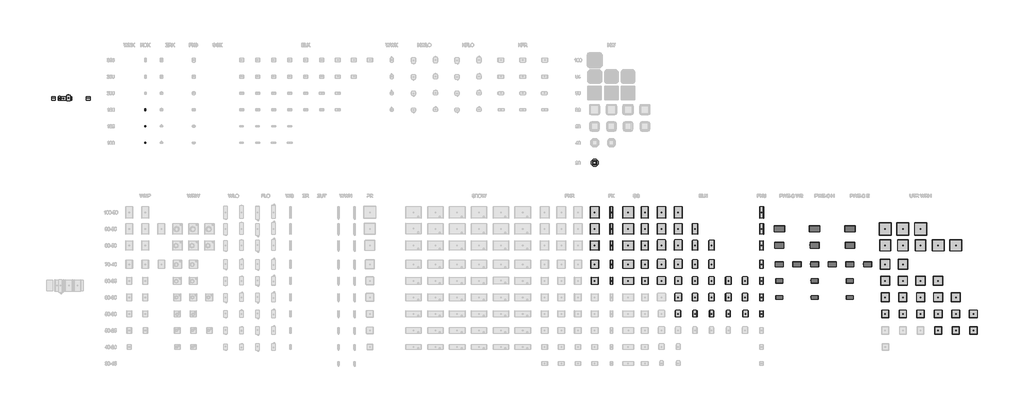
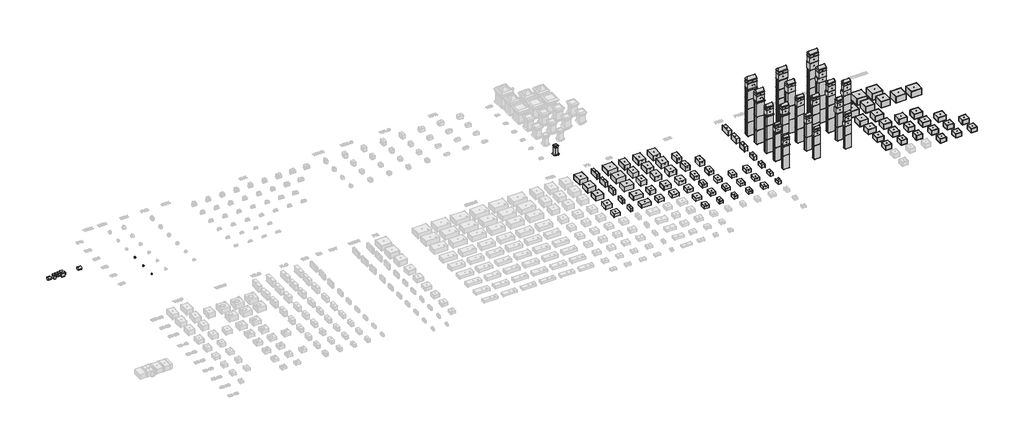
# One storey, part 3 of 9: 78 proxies, 31 dampers, 3 duct segments.
"""IFC4 building model written with IfcOpenShell, lengths in millimetres."""

from ifc_helpers import new_model, si_unit, point, frame, frame_2d, origin, place, context, project, spatial, circle_curve, trimmed, segment, composite_curve, outline, extrude, transform, mapped, element, save
from components import mechanical_equipment_1296d030, mechanical_equipment_de77129b, mechanical_equipment_b2e45c71, mechanical_equipment_80870b71, mechanical_equipment_bf6ab390, mechanical_equipment_8cc4688e, mechanical_equipment_849cdbe2, mechanical_equipment_e74dfba3, mechanical_equipment_cd2b06a3, mechanical_equipment_105a97da, mechanical_equipment_6797398d, mechanical_equipment_274835f8, mechanical_equipment_491a1ca1, mechanical_equipment_f1a6d064, mechanical_equipment_4c110e3a, mechanical_equipment_a9e4a32b, mechanical_equipment_da6cc8be, mechanical_equipment_12c0542f, mechanical_equipment_2c1e1821, mechanical_equipment_79836306, mechanical_equipment_3d7fcfd4, mechanical_equipment_096a3595, mechanical_equipment_4180a14e, mechanical_equipment_0b07e7d4, mechanical_equipment_79609267, mechanical_equipment_4406454f, mechanical_equipment_02dd2566, mechanical_equipment_f1bd4714, mechanical_equipment_54920270, mechanical_equipment_fbcd34f2, mechanical_equipment_86ce59b1, elk_315_15_a8f8469e, eln_100_50_45_c4674b5d, eln_50_30_12_ada01c48, eln_50_30_3_2654330d, eln_60_30_12_18bf4b00, eln_60_30_22_5_3fbc5c95, eln_60_35_12_623b2ca9, eln_60_35_22_5_8175634e, eln_60_35_30_b6c51ae0, eln_70_40_15_d8b5ab56, eln_70_40_45_cacf244f, eln_80_50_15_f0a65cec, eln_80_50_45_32029ed2, eln_90_50_30_69c1a980, eln_90_50_45_31dba81d, damper_272f7c6b, damper_729cf8fa, damper_902c86e1, damper_4f7fa12c, damper_6eec61e3, damper_88687493, damper_a36f345f, damper_d0f4b42e, fk_100_50_707d1d4b, fk_60_35_812c30d3, fk_70_40_5eea0806, fk_80_50_6e3d6ca7, fk_90_50_c3d4b518, fks_315_ea77e572, fku_100_50_21f81071, fku_50_30_2222d7ca, fku_60_30_1978927d, fku_60_35_e6e70716, fku_70_40_d07f7ef0, fku_80_50_0fca9827, fku_90_50_6f7e69bd, sg_100_50_84ea0e26, sg_100_50_6_c8bbc382, sg_60_35_a4c04428, sg_60_35_6_1dfb9e31, sg_70_40_5b22be34, sg_70_40_6_c95f8c90, sg_80_50_20a77c57, sg_80_50_6_522d5c34, sg_90_50_faf93912, sg_90_50_6_1e20c007

model = new_model("IFC4")

# Units and contexts
model_context = context("Model", 3, world=origin())
ifc_project = project(units=[si_unit("LENGTHUNIT", "METRE", prefix="MILLI")], contexts=[model_context])

# Site, building, storey
site = spatial("IfcSite", under=ifc_project)
building = spatial("IfcBuilding", under=site)
storey = spatial("IfcBuildingStorey", under=building, Name="KORF_Уровень 1", Elevation=0.0)

# Proxies
placement = place(None, origin())
mechanical_equipment_shape = mechanical_equipment_1296d030(model_context)
element("IfcBuildingElementProxy", 1, Name="KORF_Завеса_ВодянойНагрев_PWZ_C : PWZ-C 90-50 W2", ObjectType="KORF_Завеса_ВодянойНагрев_PWZ_C : PWZ-C 90-50 W2", at=placement, inside=storey, context=model_context, shape_type="MappedRepresentation", body=[
    mapped(mechanical_equipment_shape, transform((50074.8090444, -7120.5318822, 0.0), x_axis=(1.0, 0.0, 0.0), y_axis=(0.0, 1.0, 0.0), z_axis=(0.0, 0.0, 1.0))),
])
mechanical_equipment_2_shape = mechanical_equipment_de77129b(model_context)
element("IfcBuildingElementProxy", 2, Name="KORF_Завеса_ВодянойНагрев_PWZ_C : PWZ-C 80-50 W2", ObjectType="KORF_Завеса_ВодянойНагрев_PWZ_C : PWZ-C 80-50 W2", at=placement, inside=storey, context=model_context, shape_type="MappedRepresentation", body=[
    mapped(mechanical_equipment_2_shape, transform((50074.8090444, -8634.5126897, 0.0), x_axis=(1.0, 0.0, 0.0), y_axis=(0.0, 1.0, 0.0), z_axis=(0.0, 0.0, 1.0))),
])
mechanical_equipment_3_shape = mechanical_equipment_b2e45c71(model_context)
element("IfcBuildingElementProxy", 3, Name="KORF_Завеса_ВодянойНагрев_PWZ_C : PWZ-C 70-40 W2 DM", ObjectType="KORF_Завеса_ВодянойНагрев_PWZ_C : PWZ-C 70-40 W2 DM", at=placement, inside=storey, context=model_context, shape_type="MappedRepresentation", body=[
    mapped(mechanical_equipment_3_shape, transform((50074.8090444, -10364.6278447, 0.0), x_axis=(1.0, 0.0, 0.0), y_axis=(0.0, 1.0, 0.0), z_axis=(0.0, 0.0, 1.0))),
])
mechanical_equipment_4_shape = mechanical_equipment_80870b71(model_context)
element("IfcBuildingElementProxy", 4, Name="KORF_Завеса_ВодянойНагрев_PWZ_C : PWZ-C 60-30 W2", ObjectType="KORF_Завеса_ВодянойНагрев_PWZ_C : PWZ-C 60-30 W2", at=placement, inside=storey, context=model_context, shape_type="MappedRepresentation", body=[
    mapped(mechanical_equipment_4_shape, transform((50074.8090444, -13392.5894597, 0.0), x_axis=(1.0, 0.0, 0.0), y_axis=(0.0, 1.0, 0.0), z_axis=(0.0, 0.0, 1.0))),
])
mechanical_equipment_5_shape = mechanical_equipment_bf6ab390(model_context)
element("IfcBuildingElementProxy", 5, Name="KORF_Завеса_БезНагрева_PWZ_C : PWZ-C 90-50 H", ObjectType="KORF_Завеса_БезНагрева_PWZ_C : PWZ-C 90-50 H", at=placement, inside=storey, context=model_context, shape_type="MappedRepresentation", body=[
    mapped(mechanical_equipment_5_shape, transform((53307.4242036, -7120.5318822, 0.0), x_axis=(1.0, 0.0, 0.0), y_axis=(0.0, 1.0, 0.0), z_axis=(0.0, 0.0, 1.0))),
])
mechanical_equipment_6_shape = mechanical_equipment_8cc4688e(model_context)
element("IfcBuildingElementProxy", 6, Name="KORF_Завеса_БезНагрева_PWZ_C : PWZ-C 80-50 H", ObjectType="KORF_Завеса_БезНагрева_PWZ_C : PWZ-C 80-50 H", at=placement, inside=storey, context=model_context, shape_type="MappedRepresentation", body=[
    mapped(mechanical_equipment_6_shape, transform((53308.4242036, -8634.5126897, 0.0), x_axis=(1.0, 0.0, 0.0), y_axis=(0.0, 1.0, 0.0), z_axis=(0.0, 0.0, 1.0))),
])
mechanical_equipment_7_shape = mechanical_equipment_849cdbe2(model_context)
element("IfcBuildingElementProxy", 7, Name="KORF_Завеса_БезНагрева_PWZ_C : PWZ-C 70-40 H DM", ObjectType="KORF_Завеса_БезНагрева_PWZ_C : PWZ-C 70-40 H DM", at=placement, inside=storey, context=model_context, shape_type="MappedRepresentation", body=[
    mapped(mechanical_equipment_7_shape, transform((53307.4242036, -10364.6278447, 0.0), x_axis=(1.0, 0.0, 0.0), y_axis=(0.0, 1.0, 0.0), z_axis=(0.0, 0.0, 1.0))),
])
mechanical_equipment_8_shape = mechanical_equipment_e74dfba3(model_context)
element("IfcBuildingElementProxy", 8, Name="KORF_Завеса_БезНагрева_PWZ_C : PWZ-C 70-40 H", ObjectType="KORF_Завеса_БезНагрева_PWZ_C : PWZ-C 70-40 H", at=placement, inside=storey, context=model_context, shape_type="MappedRepresentation", body=[
    mapped(mechanical_equipment_8_shape, transform((54923.7317832, -10364.6278447, 0.0), x_axis=(1.0, 0.0, 0.0), y_axis=(0.0, 1.0, 0.0), z_axis=(0.0, 0.0, 1.0))),
])
mechanical_equipment_9_shape = mechanical_equipment_cd2b06a3(model_context)
element("IfcBuildingElementProxy", 9, Name="KORF_Завеса_БезНагрева_PWZ_C : PWZ-C 60-35 H", ObjectType="KORF_Завеса_БезНагрева_PWZ_C : PWZ-C 60-35 H", at=placement, inside=storey, context=model_context, shape_type="MappedRepresentation", body=[
    mapped(mechanical_equipment_9_shape, transform((53307.4242036, -11878.6086522, 0.0), x_axis=(1.0, 0.0, 0.0), y_axis=(0.0, 1.0, 0.0), z_axis=(0.0, 0.0, 1.0))),
])
mechanical_equipment_10_shape = mechanical_equipment_105a97da(model_context)
element("IfcBuildingElementProxy", 10, Name="KORF_Завеса_БезНагрева_PWZ_C : PWZ-C 60-30 H", ObjectType="KORF_Завеса_БезНагрева_PWZ_C : PWZ-C 60-30 H", at=placement, inside=storey, context=model_context, shape_type="MappedRepresentation", body=[
    mapped(mechanical_equipment_10_shape, transform((53307.4242036, -13392.5894597, 0.0), x_axis=(1.0, 0.0, 0.0), y_axis=(0.0, 1.0, 0.0), z_axis=(0.0, 0.0, 1.0))),
])
mechanical_equipment_11_shape = mechanical_equipment_6797398d(model_context)
element("IfcBuildingElementProxy", 11, Name="KORF_Завеса_ВодянойНагрев_PWZ_C : PWZ-C 70-40 W2", ObjectType="KORF_Завеса_ВодянойНагрев_PWZ_C : PWZ-C 70-40 W2", at=placement, inside=storey, context=model_context, shape_type="MappedRepresentation", body=[
    mapped(mechanical_equipment_11_shape, transform((51691.116624, -10365.6278447, 0.0), x_axis=(1.0, 0.0, 0.0), y_axis=(0.0, 1.0, 0.0), z_axis=(0.0, 0.0, 1.0))),
])
mechanical_equipment_12_shape = mechanical_equipment_274835f8(model_context)
element("IfcBuildingElementProxy", 12, Name="KORF_Завеса_ВодянойНагрев_PWZ_C : PWZ-C 60-35 W2", ObjectType="KORF_Завеса_ВодянойНагрев_PWZ_C : PWZ-C 60-35 W2", at=placement, inside=storey, context=model_context, shape_type="MappedRepresentation", body=[
    mapped(mechanical_equipment_12_shape, transform((50074.8090444, -11878.6086522, 0.0), x_axis=(1.0, 0.0, 0.0), y_axis=(0.0, 1.0, 0.0), z_axis=(0.0, 0.0, 1.0))),
])
mechanical_equipment_13_shape = mechanical_equipment_491a1ca1(model_context)
element("IfcBuildingElementProxy", 13, Name="KORF_Завеса_ЭлектрическийНагрев_PWZ_C : PWZ-C 90-50 E", ObjectType="KORF_Завеса_ЭлектрическийНагрев_PWZ_C : PWZ-C 90-50 E", at=placement, inside=storey, context=model_context, shape_type="MappedRepresentation", body=[
    mapped(mechanical_equipment_13_shape, transform((56540.0393628, -7120.5318822, 0.0), x_axis=(1.0, 0.0, 0.0), y_axis=(0.0, 1.0, 0.0), z_axis=(0.0, 0.0, 1.0))),
])
mechanical_equipment_14_shape = mechanical_equipment_f1a6d064(model_context)
element("IfcBuildingElementProxy", 14, Name="KORF_Завеса_ЭлектрическийНагрев_PWZ_C : PWZ-C 80-50 E", ObjectType="KORF_Завеса_ЭлектрическийНагрев_PWZ_C : PWZ-C 80-50 E", at=placement, inside=storey, context=model_context, shape_type="MappedRepresentation", body=[
    mapped(mechanical_equipment_14_shape, transform((56540.0393628, -8634.5126897, 0.0), x_axis=(1.0, 0.0, 0.0), y_axis=(0.0, 1.0, 0.0), z_axis=(0.0, 0.0, 1.0))),
])
mechanical_equipment_15_shape = mechanical_equipment_4c110e3a(model_context)
element("IfcBuildingElementProxy", 15, Name="KORF_Завеса_ЭлектрическийНагрев_PWZ_C : PWZ-C 70-40 E DM", ObjectType="KORF_Завеса_ЭлектрическийНагрев_PWZ_C : PWZ-C 70-40 E DM", at=placement, inside=storey, context=model_context, shape_type="MappedRepresentation", body=[
    mapped(mechanical_equipment_15_shape, transform((56540.0393628, -10364.6278447, 0.0), x_axis=(1.0, 0.0, 0.0), y_axis=(0.0, 1.0, 0.0), z_axis=(0.0, 0.0, 1.0))),
])
mechanical_equipment_16_shape = mechanical_equipment_a9e4a32b(model_context)
element("IfcBuildingElementProxy", 16, Name="KORF_Завеса_ЭлектрическийНагрев_PWZ_C : PWZ-C 70-40 E", ObjectType="KORF_Завеса_ЭлектрическийНагрев_PWZ_C : PWZ-C 70-40 E", at=placement, inside=storey, context=model_context, shape_type="MappedRepresentation", body=[
    mapped(mechanical_equipment_16_shape, transform((58156.3469424, -10364.6278447, 0.0), x_axis=(1.0, 0.0, 0.0), y_axis=(0.0, 1.0, 0.0), z_axis=(0.0, 0.0, 1.0))),
])
mechanical_equipment_17_shape = mechanical_equipment_da6cc8be(model_context)
element("IfcBuildingElementProxy", 17, Name="KORF_Завеса_ЭлектрическийНагрев_PWZ_C : PWZ-C 60-35 E", ObjectType="KORF_Завеса_ЭлектрическийНагрев_PWZ_C : PWZ-C 60-35 E", at=placement, inside=storey, context=model_context, shape_type="MappedRepresentation", body=[
    mapped(mechanical_equipment_17_shape, transform((56540.0393628, -11878.6086522, 0.0), x_axis=(1.0, 0.0, 0.0), y_axis=(0.0, 1.0, 0.0), z_axis=(0.0, 0.0, 1.0))),
])
mechanical_equipment_18_shape = mechanical_equipment_12c0542f(model_context)
element("IfcBuildingElementProxy", 18, Name="KORF_Завеса_ЭлектрическийНагрев_PWZ_C : PWZ-C 60-30 E", ObjectType="KORF_Завеса_ЭлектрическийНагрев_PWZ_C : PWZ-C 60-30 E", at=placement, inside=storey, context=model_context, shape_type="MappedRepresentation", body=[
    mapped(mechanical_equipment_18_shape, transform((56540.0393628, -13392.5894597, 0.0), x_axis=(1.0, 0.0, 0.0), y_axis=(0.0, 1.0, 0.0), z_axis=(0.0, 0.0, 1.0))),
])
mechanical_equipment_19_shape = mechanical_equipment_2c1e1821(model_context)
element("IfcBuildingElementProxy", 19, Name="KORF_Вентилятор_UTR_WRH : UTR 50-25 WRH 25.4E (М)", ObjectType="KORF_Вентилятор_UTR_WRH : UTR 50-25 WRH 25.4E (М)", at=placement, inside=storey, context=model_context, shape_type="MappedRepresentation", body=[
    mapped(mechanical_equipment_19_shape, transform((65912.8848403, -16420.5510747, 0.0), x_axis=(1.0, 0.0, 0.0), y_axis=(0.0, 1.0, 0.0), z_axis=(0.0, 0.0, 1.0))),
])
element("IfcBuildingElementProxy", 20, Name="KORF_Вентилятор_UTR_WRH : UTR 50-25 WRH 25.4D (М)", ObjectType="KORF_Вентилятор_UTR_WRH : UTR 50-25 WRH 25.4D (М)", at=placement, inside=storey, context=model_context, shape_type="MappedRepresentation", body=[
    mapped(mechanical_equipment_19_shape, transform((64296.5772607, -16420.5510747, 0.0), x_axis=(1.0, 0.0, 0.0), y_axis=(0.0, 1.0, 0.0), z_axis=(0.0, 0.0, 1.0))),
])
element("IfcBuildingElementProxy", 21, Name="KORF_Вентилятор_UTR_WRH : UTR 50-25 WRH 25.6D (М)", ObjectType="KORF_Вентилятор_UTR_WRH : UTR 50-25 WRH 25.6D (М)", at=placement, inside=storey, context=model_context, shape_type="MappedRepresentation", body=[
    mapped(mechanical_equipment_19_shape, transform((67529.1924199, -16420.5510747, 0.0), x_axis=(1.0, 0.0, 0.0), y_axis=(0.0, 1.0, 0.0), z_axis=(0.0, 0.0, 1.0))),
])
mechanical_equipment_20_shape = mechanical_equipment_79836306(model_context)
element("IfcBuildingElementProxy", 22, Name="KORF_Вентилятор_UTR_WRH : UTR 50-30 WRH 25.4E", ObjectType="KORF_Вентилятор_UTR_WRH : UTR 50-30 WRH 25.4E", at=placement, inside=storey, context=model_context, shape_type="MappedRepresentation", body=[
    mapped(mechanical_equipment_20_shape, transform((61063.9621015, -14906.5702672, 0.0), x_axis=(1.0, 0.0, 0.0), y_axis=(0.0, 1.0, 0.0), z_axis=(0.0, 0.0, 1.0))),
])
element("IfcBuildingElementProxy", 23, Name="KORF_Вентилятор_UTR_WRH : UTR 50-30 WRH 25.4D", ObjectType="KORF_Вентилятор_UTR_WRH : UTR 50-30 WRH 25.4D", at=placement, inside=storey, context=model_context, shape_type="MappedRepresentation", body=[
    mapped(mechanical_equipment_20_shape, transform((59447.654522, -14906.5702672, 0.0), x_axis=(1.0, 0.0, 0.0), y_axis=(0.0, 1.0, 0.0), z_axis=(0.0, 0.0, 1.0))),
])
element("IfcBuildingElementProxy", 24, Name="KORF_Вентилятор_UTR_WRH : UTR 50-30 WRH 25.6D", ObjectType="KORF_Вентилятор_UTR_WRH : UTR 50-30 WRH 25.6D", at=placement, inside=storey, context=model_context, shape_type="MappedRepresentation", body=[
    mapped(mechanical_equipment_20_shape, transform((62680.2696811, -14906.5702672, 0.0), x_axis=(1.0, 0.0, 0.0), y_axis=(0.0, 1.0, 0.0), z_axis=(0.0, 0.0, 1.0))),
])
mechanical_equipment_21_shape = mechanical_equipment_3d7fcfd4(model_context)
element("IfcBuildingElementProxy", 25, Name="KORF_Вентилятор_UTR_WRH : UTR 50-30 WRH 28.4E (М)", ObjectType="KORF_Вентилятор_UTR_WRH : UTR 50-30 WRH 28.4E (М)", at=placement, inside=storey, context=model_context, shape_type="MappedRepresentation", body=[
    mapped(mechanical_equipment_21_shape, transform((65872.8848403, -14906.5702672, 0.0), x_axis=(1.0, 0.0, 0.0), y_axis=(0.0, 1.0, 0.0), z_axis=(0.0, 0.0, 1.0))),
])
element("IfcBuildingElementProxy", 26, Name="KORF_Вентилятор_UTR_WRH : UTR 50-30 WRH 28.4D (М)", ObjectType="KORF_Вентилятор_UTR_WRH : UTR 50-30 WRH 28.4D (М)", at=placement, inside=storey, context=model_context, shape_type="MappedRepresentation", body=[
    mapped(mechanical_equipment_21_shape, transform((64256.5772607, -14906.5702672, 0.0), x_axis=(1.0, 0.0, 0.0), y_axis=(0.0, 1.0, 0.0), z_axis=(0.0, 0.0, 1.0))),
])
element("IfcBuildingElementProxy", 27, Name="KORF_Вентилятор_UTR_WRH : UTR 50-30 WRH 28.6D (М)", ObjectType="KORF_Вентилятор_UTR_WRH : UTR 50-30 WRH 28.6D (М)", at=placement, inside=storey, context=model_context, shape_type="MappedRepresentation", body=[
    mapped(mechanical_equipment_21_shape, transform((67489.1924199, -14906.5702672, 0.0), x_axis=(1.0, 0.0, 0.0), y_axis=(0.0, 1.0, 0.0), z_axis=(0.0, 0.0, 1.0))),
])
mechanical_equipment_22_shape = mechanical_equipment_096a3595(model_context)
element("IfcBuildingElementProxy", 28, Name="KORF_Вентилятор_UTR_WRH : UTR 60-30 WRH 28.4E", ObjectType="KORF_Вентилятор_UTR_WRH : UTR 60-30 WRH 28.4E", at=placement, inside=storey, context=model_context, shape_type="MappedRepresentation", body=[
    mapped(mechanical_equipment_22_shape, transform((61023.9621015, -13392.5894597, 0.0), x_axis=(1.0, 0.0, 0.0), y_axis=(0.0, 1.0, 0.0), z_axis=(0.0, 0.0, 1.0))),
])
element("IfcBuildingElementProxy", 29, Name="KORF_Вентилятор_UTR_WRH : UTR 60-30 WRH 28.4D", ObjectType="KORF_Вентилятор_UTR_WRH : UTR 60-30 WRH 28.4D", at=placement, inside=storey, context=model_context, shape_type="MappedRepresentation", body=[
    mapped(mechanical_equipment_22_shape, transform((59407.654522, -13392.5894597, 0.0), x_axis=(1.0, 0.0, 0.0), y_axis=(0.0, 1.0, 0.0), z_axis=(0.0, 0.0, 1.0))),
])
element("IfcBuildingElementProxy", 30, Name="KORF_Вентилятор_UTR_WRH : UTR 60-30 WRH 28.6D", ObjectType="KORF_Вентилятор_UTR_WRH : UTR 60-30 WRH 28.6D", at=placement, inside=storey, context=model_context, shape_type="MappedRepresentation", body=[
    mapped(mechanical_equipment_22_shape, transform((62640.2696811, -13392.5894597, 0.0), x_axis=(1.0, 0.0, 0.0), y_axis=(0.0, 1.0, 0.0), z_axis=(0.0, 0.0, 1.0))),
])
mechanical_equipment_23_shape = mechanical_equipment_4180a14e(model_context)
element("IfcBuildingElementProxy", 31, Name="KORF_Вентилятор_UTR_WRH : UTR 60-30 WRH 31.4D (М)", ObjectType="KORF_Вентилятор_UTR_WRH : UTR 60-30 WRH 31.4D (М)", at=placement, inside=storey, context=model_context, shape_type="MappedRepresentation", body=[
    mapped(mechanical_equipment_23_shape, transform((64201.5772607, -13392.5894597, 0.0), x_axis=(1.0, 0.0, 0.0), y_axis=(0.0, 1.0, 0.0), z_axis=(0.0, 0.0, 1.0))),
])
element("IfcBuildingElementProxy", 32, Name="KORF_Вентилятор_UTR_WRH : UTR 60-30 WRH 31.6D (М)", ObjectType="KORF_Вентилятор_UTR_WRH : UTR 60-30 WRH 31.6D (М)", at=placement, inside=storey, context=model_context, shape_type="MappedRepresentation", body=[
    mapped(mechanical_equipment_23_shape, transform((65817.8848403, -13392.5894597, 0.0), x_axis=(1.0, 0.0, 0.0), y_axis=(0.0, 1.0, 0.0), z_axis=(0.0, 0.0, 1.0))),
])
mechanical_equipment_24_shape = mechanical_equipment_0b07e7d4(model_context)
element("IfcBuildingElementProxy", 33, Name="KORF_Вентилятор_UTR_WRH : UTR 60-35 WRH 31.4D", ObjectType="KORF_Вентилятор_UTR_WRH : UTR 60-35 WRH 31.4D", at=placement, inside=storey, context=model_context, shape_type="MappedRepresentation", body=[
    mapped(mechanical_equipment_24_shape, transform((59352.654522, -11878.6086522, 0.0), x_axis=(1.0, 0.0, 0.0), y_axis=(0.0, 1.0, 0.0), z_axis=(0.0, 0.0, 1.0))),
])
element("IfcBuildingElementProxy", 34, Name="KORF_Вентилятор_UTR_WRH : UTR 60-35 WRH 31.6D", ObjectType="KORF_Вентилятор_UTR_WRH : UTR 60-35 WRH 31.6D", at=placement, inside=storey, context=model_context, shape_type="MappedRepresentation", body=[
    mapped(mechanical_equipment_24_shape, transform((60968.9621015, -11878.6086522, 0.0), x_axis=(1.0, 0.0, 0.0), y_axis=(0.0, 1.0, 0.0), z_axis=(0.0, 0.0, 1.0))),
])
mechanical_equipment_25_shape = mechanical_equipment_79609267(model_context)
element("IfcBuildingElementProxy", 35, Name="KORF_Вентилятор_UTR_WRH : UTR 60-35 WRH 35.4D (М)", ObjectType="KORF_Вентилятор_UTR_WRH : UTR 60-35 WRH 35.4D (М)", at=placement, inside=storey, context=model_context, shape_type="MappedRepresentation", body=[
    mapped(mechanical_equipment_25_shape, transform((62572.7696811, -11878.6086522, 0.0), x_axis=(1.0, 0.0, 0.0), y_axis=(0.0, 1.0, 0.0), z_axis=(0.0, 0.0, 1.0))),
])
element("IfcBuildingElementProxy", 36, Name="KORF_Вентилятор_UTR_WRH : UTR 60-35 WRH 35.6D (М)", ObjectType="KORF_Вентилятор_UTR_WRH : UTR 60-35 WRH 35.6D (М)", at=placement, inside=storey, context=model_context, shape_type="MappedRepresentation", body=[
    mapped(mechanical_equipment_25_shape, transform((64189.0772607, -11878.6086522, 0.0), x_axis=(1.0, 0.0, 0.0), y_axis=(0.0, 1.0, 0.0), z_axis=(0.0, 0.0, 1.0))),
])
mechanical_equipment_26_shape = mechanical_equipment_4406454f(model_context)
element("IfcBuildingElementProxy", 37, Name="KORF_Вентилятор_UTR_WRH : UTR 70-40 WRH 35.4D", ObjectType="KORF_Вентилятор_UTR_WRH : UTR 70-40 WRH 35.4D", at=placement, inside=storey, context=model_context, shape_type="MappedRepresentation", body=[
    mapped(mechanical_equipment_26_shape, transform((59340.154522, -10364.6278447, 0.0), x_axis=(1.0, 0.0, 0.0), y_axis=(0.0, 1.0, 0.0), z_axis=(0.0, 0.0, 1.0))),
])
element("IfcBuildingElementProxy", 38, Name="KORF_Вентилятор_UTR_WRH : UTR 70-40 WRH 35.6D", ObjectType="KORF_Вентилятор_UTR_WRH : UTR 70-40 WRH 35.6D", at=placement, inside=storey, context=model_context, shape_type="MappedRepresentation", body=[
    mapped(mechanical_equipment_26_shape, transform((60956.4621015, -10364.6278447, 0.0), x_axis=(1.0, 0.0, 0.0), y_axis=(0.0, 1.0, 0.0), z_axis=(0.0, 0.0, 1.0))),
])
mechanical_equipment_27_shape = mechanical_equipment_02dd2566(model_context)
element("IfcBuildingElementProxy", 39, Name="KORF_Вентилятор_UTR_WRH : UTR 80-50 WRH 40.4D", ObjectType="KORF_Вентилятор_UTR_WRH : UTR 80-50 WRH 40.4D", at=placement, inside=storey, context=model_context, shape_type="MappedRepresentation", body=[
    mapped(mechanical_equipment_27_shape, transform((59285.154522, -8634.5126897, 0.0), x_axis=(1.0, 0.0, 0.0), y_axis=(0.0, 1.0, 0.0), z_axis=(0.0, 0.0, 1.0))),
])
element("IfcBuildingElementProxy", 40, Name="KORF_Вентилятор_UTR_WRH : UTR 80-50 WRH 40.6D", ObjectType="KORF_Вентилятор_UTR_WRH : UTR 80-50 WRH 40.6D", at=placement, inside=storey, context=model_context, shape_type="MappedRepresentation", body=[
    mapped(mechanical_equipment_27_shape, transform((60901.4621015, -8634.5126897, 0.0), x_axis=(1.0, 0.0, 0.0), y_axis=(0.0, 1.0, 0.0), z_axis=(0.0, 0.0, 1.0))),
])
element("IfcBuildingElementProxy", 41, Name="KORF_Вентилятор_UTR_WRH : UTR 80-50 WRH 40.8D", ObjectType="KORF_Вентилятор_UTR_WRH : UTR 80-50 WRH 40.8D", at=placement, inside=storey, context=model_context, shape_type="MappedRepresentation", body=[
    mapped(mechanical_equipment_27_shape, transform((62517.7696811, -8634.5126897, 0.0), x_axis=(1.0, 0.0, 0.0), y_axis=(0.0, 1.0, 0.0), z_axis=(0.0, 0.0, 1.0))),
])
mechanical_equipment_28_shape = mechanical_equipment_f1bd4714(model_context)
element("IfcBuildingElementProxy", 42, Name="KORF_Вентилятор_UTR_WRH : UTR 80-50 WRH 45.4D (М)", ObjectType="KORF_Вентилятор_UTR_WRH : UTR 80-50 WRH 45.4D (М)", at=placement, inside=storey, context=model_context, shape_type="MappedRepresentation", body=[
    mapped(mechanical_equipment_28_shape, transform((64071.5772607, -8634.5126897, 0.0), x_axis=(1.0, 0.0, 0.0), y_axis=(0.0, 1.0, 0.0), z_axis=(0.0, 0.0, 1.0))),
])
element("IfcBuildingElementProxy", 43, Name="KORF_Вентилятор_UTR_WRH : UTR 80-50 WRH 45.6D (М)", ObjectType="KORF_Вентилятор_UTR_WRH : UTR 80-50 WRH 45.6D (М)", at=placement, inside=storey, context=model_context, shape_type="MappedRepresentation", body=[
    mapped(mechanical_equipment_28_shape, transform((65687.8848403, -8634.5126897, 0.0), x_axis=(1.0, 0.0, 0.0), y_axis=(0.0, 1.0, 0.0), z_axis=(0.0, 0.0, 1.0))),
])
mechanical_equipment_29_shape = mechanical_equipment_54920270(model_context)
element("IfcBuildingElementProxy", 44, Name="KORF_Вентилятор_UTR_WRH : UTR 90-50 WRH 45.4D", ObjectType="KORF_Вентилятор_UTR_WRH : UTR 90-50 WRH 45.4D", at=placement, inside=storey, context=model_context, shape_type="MappedRepresentation", body=[
    mapped(mechanical_equipment_29_shape, transform((59222.654522, -7120.5318822, 0.0), x_axis=(1.0, 0.0, 0.0), y_axis=(0.0, 1.0, 0.0), z_axis=(0.0, 0.0, 1.0))),
])
element("IfcBuildingElementProxy", 45, Name="KORF_Вентилятор_UTR_WRH : UTR 90-50 WRH 45.6D", ObjectType="KORF_Вентилятор_UTR_WRH : UTR 90-50 WRH 45.6D", at=placement, inside=storey, context=model_context, shape_type="MappedRepresentation", body=[
    mapped(mechanical_equipment_29_shape, transform((60838.9621015, -7120.5318822, 0.0), x_axis=(1.0, 0.0, 0.0), y_axis=(0.0, 1.0, 0.0), z_axis=(0.0, 0.0, 1.0))),
])
element("IfcBuildingElementProxy", 46, Name="KORF_Вентилятор_UTR_WRH : UTR 90-50 WRH 45.8D", ObjectType="KORF_Вентилятор_UTR_WRH : UTR 90-50 WRH 45.8D", at=placement, inside=storey, context=model_context, shape_type="MappedRepresentation", body=[
    mapped(mechanical_equipment_29_shape, transform((62455.2696811, -7120.5318822, 0.0), x_axis=(1.0, 0.0, 0.0), y_axis=(0.0, 1.0, 0.0), z_axis=(0.0, 0.0, 1.0))),
])
mechanical_equipment_30_shape = mechanical_equipment_fbcd34f2(model_context)
element("IfcBuildingElementProxy", 47, Name="KORF_Охладитель_Фреоновый_Круглый_Левый_KFLO : KFLO 315/2", ObjectType="KORF_Охладитель_Фреоновый_Круглый_Левый_KFLO : KFLO 315/2", at=placement, inside=storey, context=model_context, shape_type="MappedRepresentation", body=[
    mapped(mechanical_equipment_30_shape, transform((-14806.118088, 4827.8143037, 0.0), x_axis=(-1.0, 0.0, 0.0), y_axis=(0.0, -1.0, 0.0), z_axis=(0.0, 0.0, 1.0))),
])
mechanical_equipment_31_shape = mechanical_equipment_86ce59b1(model_context)
element("IfcBuildingElementProxy", 48, Name="KORF_Вентилятор_Вытяжной_Крышный_KW : KW 30/25-2Е.А", ObjectType="KORF_Вентилятор_Вытяжной_Крышный_KW : KW 30/25-2Е.А", at=placement, inside=storey, context=model_context, shape_type="MappedRepresentation", body=[
    mapped(mechanical_equipment_31_shape, transform((33166.2468581, -1064.6086522, 0.0), x_axis=(1.0, 0.0, 0.0), y_axis=(0.0, 1.0, 0.0), z_axis=(0.0, 0.0, 1.0))),
])
elk_315_15_shape = elk_315_15_a8f8469e(model_context)
element("IfcBuildingElementProxy", 49, Name="KORF_Нагреватель_Электрический_Круглый_ELK : ELK 315/15", ObjectType="KORF_Нагреватель_Электрический_Круглый_ELK : ELK 315/15", at=placement, inside=storey, context=model_context, shape_type="MappedRepresentation", body=[
    mapped(elk_315_15_shape, transform((-15221.118088, 4827.8143037, 0.0), x_axis=(-1.0, 0.0, 0.0), y_axis=(0.0, -1.0, 0.0), z_axis=(0.0, 0.0, 1.0))),
])
eln_100_50_45_shape = eln_100_50_45_c4674b5d(model_context)
element("IfcBuildingElementProxy", 50, Name="KORF_Нагреватель_Электрический_ELN : ELN 100-50/45", ObjectType="KORF_Нагреватель_Электрический_ELN : ELN 100-50/45", at=placement, inside=storey, context=model_context, shape_type="MappedRepresentation", body=[
    mapped(eln_100_50_45_shape, transform((40436.1559873, -5606.5510747, 0.0), x_axis=(1.0, 0.0, 0.0), y_axis=(0.0, 1.0, 0.0), z_axis=(0.0, 0.0, 1.0))),
])
element("IfcBuildingElementProxy", 51, Name="KORF_Нагреватель_Электрический_ELN : ELN 100-50/60", ObjectType="KORF_Нагреватель_Электрический_ELN : ELN 100-50/60", at=placement, inside=storey, context=model_context, shape_type="MappedRepresentation", body=[
    mapped(eln_100_50_45_shape, transform((38906.8741614, -5606.5510747, 0.0), x_axis=(1.0, 0.0, 0.0), y_axis=(0.0, 1.0, 0.0), z_axis=(0.0, 0.0, 1.0))),
])
eln_50_30_12_shape = eln_50_30_12_ada01c48(model_context)
element("IfcBuildingElementProxy", 52, Name="KORF_Нагреватель_Электрический_ELN : ELN 50-30/12", ObjectType="KORF_Нагреватель_Электрический_ELN : ELN 50-30/12", at=placement, inside=storey, context=model_context, shape_type="MappedRepresentation", body=[
    mapped(eln_50_30_12_shape, transform((46724.7832907, -14906.5702672, 0.0), x_axis=(1.0, 0.0, 0.0), y_axis=(0.0, 1.0, 0.0), z_axis=(0.0, 0.0, 1.0))),
])
element("IfcBuildingElementProxy", 53, Name="KORF_Нагреватель_Электрический_ELN : ELN 50-30/15", ObjectType="KORF_Нагреватель_Электрический_ELN : ELN 50-30/15", at=placement, inside=storey, context=model_context, shape_type="MappedRepresentation", body=[
    mapped(eln_50_30_12_shape, transform((40557.6559873, -14906.5702672, 0.0), x_axis=(1.0, 0.0, 0.0), y_axis=(0.0, 1.0, 0.0), z_axis=(0.0, 0.0, 1.0))),
])
eln_50_30_3_shape = eln_50_30_3_2654330d(model_context)
element("IfcBuildingElementProxy", 54, Name="KORF_Нагреватель_Электрический_ELN : ELN 50-30/3", ObjectType="KORF_Нагреватель_Электрический_ELN : ELN 50-30/3", at=placement, inside=storey, context=model_context, shape_type="MappedRepresentation", body=[
    mapped(eln_50_30_3_shape, transform((43676.219639, -14906.5702672, 0.0), x_axis=(1.0, 0.0, 0.0), y_axis=(0.0, 1.0, 0.0), z_axis=(0.0, 0.0, 1.0))),
])
element("IfcBuildingElementProxy", 55, Name="KORF_Нагреватель_Электрический_ELN : ELN 50-30/4.5", ObjectType="KORF_Нагреватель_Электрический_ELN : ELN 50-30/4.5", at=placement, inside=storey, context=model_context, shape_type="MappedRepresentation", body=[
    mapped(eln_50_30_3_shape, transform((45205.5014648, -14906.5702672, 0.0), x_axis=(1.0, 0.0, 0.0), y_axis=(0.0, 1.0, 0.0), z_axis=(0.0, 0.0, 1.0))),
])
element("IfcBuildingElementProxy", 56, Name="KORF_Нагреватель_Электрический_ELN : ELN 50-30/7.5", ObjectType="KORF_Нагреватель_Электрический_ELN : ELN 50-30/7.5", at=placement, inside=storey, context=model_context, shape_type="MappedRepresentation", body=[
    mapped(eln_50_30_3_shape, transform((42146.9378131, -14906.5702672, 0.0), x_axis=(1.0, 0.0, 0.0), y_axis=(0.0, 1.0, 0.0), z_axis=(0.0, 0.0, 1.0))),
])
eln_60_30_12_shape = eln_60_30_12_18bf4b00(model_context)
element("IfcBuildingElementProxy", 57, Name="KORF_Нагреватель_Электрический_ELN : ELN 60-30/12", ObjectType="KORF_Нагреватель_Электрический_ELN : ELN 60-30/12", at=placement, inside=storey, context=model_context, shape_type="MappedRepresentation", body=[
    mapped(eln_60_30_12_shape, transform((46674.7832907, -13392.5894597, 0.0), x_axis=(1.0, 0.0, 0.0), y_axis=(0.0, 1.0, 0.0), z_axis=(0.0, 0.0, 1.0))),
])
element("IfcBuildingElementProxy", 58, Name="KORF_Нагреватель_Электрический_ELN : ELN 60-30/15", ObjectType="KORF_Нагреватель_Электрический_ELN : ELN 60-30/15", at=placement, inside=storey, context=model_context, shape_type="MappedRepresentation", body=[
    mapped(eln_60_30_12_shape, transform((42086.9378131, -13392.5894597, 0.0), x_axis=(1.0, 0.0, 0.0), y_axis=(0.0, 1.0, 0.0), z_axis=(0.0, 0.0, 1.0))),
])
eln_60_30_22_5_shape = eln_60_30_22_5_3fbc5c95(model_context)
element("IfcBuildingElementProxy", 59, Name="KORF_Нагреватель_Электрический_ELN : ELN 60-30/22.5", ObjectType="KORF_Нагреватель_Электрический_ELN : ELN 60-30/22.5", at=placement, inside=storey, context=model_context, shape_type="MappedRepresentation", body=[
    mapped(eln_60_30_22_5_shape, transform((40497.6559873, -13392.5894597, 0.0), x_axis=(1.0, 0.0, 0.0), y_axis=(0.0, 1.0, 0.0), z_axis=(0.0, 0.0, 1.0))),
])
element("IfcBuildingElementProxy", 60, Name="KORF_Нагреватель_Электрический_ELN : ELN 60-30/4.5", ObjectType="KORF_Нагреватель_Электрический_ELN : ELN 60-30/4.5", at=placement, inside=storey, context=model_context, shape_type="MappedRepresentation", body=[
    mapped(eln_60_30_12_shape, transform((43616.219639, -13392.5894597, 0.0), x_axis=(1.0, 0.0, 0.0), y_axis=(0.0, 1.0, 0.0), z_axis=(0.0, 0.0, 1.0))),
])
element("IfcBuildingElementProxy", 61, Name="KORF_Нагреватель_Электрический_ELN : ELN 60-30/7.5", ObjectType="KORF_Нагреватель_Электрический_ELN : ELN 60-30/7.5", at=placement, inside=storey, context=model_context, shape_type="MappedRepresentation", body=[
    mapped(eln_60_30_12_shape, transform((45145.5014648, -13392.5894597, 0.0), x_axis=(1.0, 0.0, 0.0), y_axis=(0.0, 1.0, 0.0), z_axis=(0.0, 0.0, 1.0))),
])
eln_60_35_12_shape = eln_60_35_12_623b2ca9(model_context)
element("IfcBuildingElementProxy", 62, Name="KORF_Нагреватель_Электрический_ELN : ELN 60-35/12", ObjectType="KORF_Нагреватель_Электрический_ELN : ELN 60-35/12", at=placement, inside=storey, context=model_context, shape_type="MappedRepresentation", body=[
    mapped(eln_60_35_12_shape, transform((46674.7832907, -11878.6086522, 0.0), x_axis=(1.0, 0.0, 0.0), y_axis=(0.0, 1.0, 0.0), z_axis=(0.0, 0.0, 1.0))),
])
element("IfcBuildingElementProxy", 63, Name="KORF_Нагреватель_Электрический_ELN : ELN 60-35/15", ObjectType="KORF_Нагреватель_Электрический_ELN : ELN 60-35/15", at=placement, inside=storey, context=model_context, shape_type="MappedRepresentation", body=[
    mapped(eln_60_35_12_shape, transform((42086.9378131, -11878.6086522, 0.0), x_axis=(1.0, 0.0, 0.0), y_axis=(0.0, 1.0, 0.0), z_axis=(0.0, 0.0, 1.0))),
])
eln_60_35_22_5_shape = eln_60_35_22_5_8175634e(model_context)
element("IfcBuildingElementProxy", 64, Name="KORF_Нагреватель_Электрический_ELN : ELN 60-35/22.5", ObjectType="KORF_Нагреватель_Электрический_ELN : ELN 60-35/22.5", at=placement, inside=storey, context=model_context, shape_type="MappedRepresentation", body=[
    mapped(eln_60_35_22_5_shape, transform((40497.6559873, -11878.6086522, 0.0), x_axis=(1.0, 0.0, 0.0), y_axis=(0.0, 1.0, 0.0), z_axis=(0.0, 0.0, 1.0))),
])
eln_60_35_30_shape = eln_60_35_30_b6c51ae0(model_context)
element("IfcBuildingElementProxy", 65, Name="KORF_Нагреватель_Электрический_ELN : ELN 60-35/30", ObjectType="KORF_Нагреватель_Электрический_ELN : ELN 60-35/30", at=placement, inside=storey, context=model_context, shape_type="MappedRepresentation", body=[
    mapped(eln_60_35_30_shape, transform((38908.3741614, -11878.6086522, 0.0), x_axis=(1.0, 0.0, 0.0), y_axis=(0.0, 1.0, 0.0), z_axis=(0.0, 0.0, 1.0))),
])
element("IfcBuildingElementProxy", 66, Name="KORF_Нагреватель_Электрический_ELN : ELN 60-35/4.5", ObjectType="KORF_Нагреватель_Электрический_ELN : ELN 60-35/4.5", at=placement, inside=storey, context=model_context, shape_type="MappedRepresentation", body=[
    mapped(eln_60_35_12_shape, transform((43616.219639, -11878.6086522, 0.0), x_axis=(1.0, 0.0, 0.0), y_axis=(0.0, 1.0, 0.0), z_axis=(0.0, 0.0, 1.0))),
])
element("IfcBuildingElementProxy", 67, Name="KORF_Нагреватель_Электрический_ELN : ELN 60-35/7.5", ObjectType="KORF_Нагреватель_Электрический_ELN : ELN 60-35/7.5", at=placement, inside=storey, context=model_context, shape_type="MappedRepresentation", body=[
    mapped(eln_60_35_12_shape, transform((45145.5014648, -11878.6086522, 0.0), x_axis=(1.0, 0.0, 0.0), y_axis=(0.0, 1.0, 0.0), z_axis=(0.0, 0.0, 1.0))),
])
eln_70_40_15_shape = eln_70_40_15_d8b5ab56(model_context)
element("IfcBuildingElementProxy", 68, Name="KORF_Нагреватель_Электрический_ELN : ELN 70-40/15", ObjectType="KORF_Нагреватель_Электрический_ELN : ELN 70-40/15", at=placement, inside=storey, context=model_context, shape_type="MappedRepresentation", body=[
    mapped(eln_70_40_15_shape, transform((43616.219639, -10364.6278447, 0.0), x_axis=(1.0, 0.0, 0.0), y_axis=(0.0, 1.0, 0.0), z_axis=(0.0, 0.0, 1.0))),
])
element("IfcBuildingElementProxy", 69, Name="KORF_Нагреватель_Электрический_ELN : ELN 70-40/30", ObjectType="KORF_Нагреватель_Электрический_ELN : ELN 70-40/30", at=placement, inside=storey, context=model_context, shape_type="MappedRepresentation", body=[
    mapped(eln_70_40_15_shape, transform((42086.9378131, -10364.6278447, 0.0), x_axis=(1.0, 0.0, 0.0), y_axis=(0.0, 1.0, 0.0), z_axis=(0.0, 0.0, 1.0))),
])
eln_70_40_45_shape = eln_70_40_45_cacf244f(model_context)
element("IfcBuildingElementProxy", 70, Name="KORF_Нагреватель_Электрический_ELN : ELN 70-40/45", ObjectType="KORF_Нагреватель_Электрический_ELN : ELN 70-40/45", at=placement, inside=storey, context=model_context, shape_type="MappedRepresentation", body=[
    mapped(eln_70_40_45_shape, transform((40437.6559873, -10364.6278447, 0.0), x_axis=(1.0, 0.0, 0.0), y_axis=(0.0, 1.0, 0.0), z_axis=(0.0, 0.0, 1.0))),
])
element("IfcBuildingElementProxy", 71, Name="KORF_Нагреватель_Электрический_ELN : ELN 70-40/60", ObjectType="KORF_Нагреватель_Электрический_ELN : ELN 70-40/60", at=placement, inside=storey, context=model_context, shape_type="MappedRepresentation", body=[
    mapped(eln_70_40_45_shape, transform((38908.3741614, -10364.6278447, 0.0), x_axis=(1.0, 0.0, 0.0), y_axis=(0.0, 1.0, 0.0), z_axis=(0.0, 0.0, 1.0))),
])
eln_80_50_15_shape = eln_80_50_15_f0a65cec(model_context)
element("IfcBuildingElementProxy", 72, Name="KORF_Нагреватель_Электрический_ELN : ELN 80-50/15", ObjectType="KORF_Нагреватель_Электрический_ELN : ELN 80-50/15", at=placement, inside=storey, context=model_context, shape_type="MappedRepresentation", body=[
    mapped(eln_80_50_15_shape, transform((43616.219639, -8634.5126897, 0.0), x_axis=(1.0, 0.0, 0.0), y_axis=(0.0, 1.0, 0.0), z_axis=(0.0, 0.0, 1.0))),
])
element("IfcBuildingElementProxy", 73, Name="KORF_Нагреватель_Электрический_ELN : ELN 80-50/30", ObjectType="KORF_Нагреватель_Электрический_ELN : ELN 80-50/30", at=placement, inside=storey, context=model_context, shape_type="MappedRepresentation", body=[
    mapped(eln_80_50_15_shape, transform((42086.9378131, -8634.5126897, 0.0), x_axis=(1.0, 0.0, 0.0), y_axis=(0.0, 1.0, 0.0), z_axis=(0.0, 0.0, 1.0))),
])
eln_80_50_45_shape = eln_80_50_45_32029ed2(model_context)
element("IfcBuildingElementProxy", 74, Name="KORF_Нагреватель_Электрический_ELN : ELN 80-50/45", ObjectType="KORF_Нагреватель_Электрический_ELN : ELN 80-50/45", at=placement, inside=storey, context=model_context, shape_type="MappedRepresentation", body=[
    mapped(eln_80_50_45_shape, transform((40437.6559873, -8634.5126897, 0.0), x_axis=(1.0, 0.0, 0.0), y_axis=(0.0, 1.0, 0.0), z_axis=(0.0, 0.0, 1.0))),
])
element("IfcBuildingElementProxy", 75, Name="KORF_Нагреватель_Электрический_ELN : ELN 80-50/60", ObjectType="KORF_Нагреватель_Электрический_ELN : ELN 80-50/60", at=placement, inside=storey, context=model_context, shape_type="MappedRepresentation", body=[
    mapped(eln_80_50_45_shape, transform((38908.3741614, -8634.5126897, 0.0), x_axis=(1.0, 0.0, 0.0), y_axis=(0.0, 1.0, 0.0), z_axis=(0.0, 0.0, 1.0))),
])
eln_90_50_30_shape = eln_90_50_30_69c1a980(model_context)
element("IfcBuildingElementProxy", 76, Name="KORF_Нагреватель_Электрический_ELN : ELN 90-50/30", ObjectType="KORF_Нагреватель_Электрический_ELN : ELN 90-50/30", at=placement, inside=storey, context=model_context, shape_type="MappedRepresentation", body=[
    mapped(eln_90_50_30_shape, transform((42085.4378131, -7120.5318822, 0.0), x_axis=(1.0, 0.0, 0.0), y_axis=(0.0, 1.0, 0.0), z_axis=(0.0, 0.0, 1.0))),
])
eln_90_50_45_shape = eln_90_50_45_31dba81d(model_context)
element("IfcBuildingElementProxy", 77, Name="KORF_Нагреватель_Электрический_ELN : ELN 90-50/45", ObjectType="KORF_Нагреватель_Электрический_ELN : ELN 90-50/45", at=placement, inside=storey, context=model_context, shape_type="MappedRepresentation", body=[
    mapped(eln_90_50_45_shape, transform((40436.1559873, -7120.5318822, 0.0), x_axis=(1.0, 0.0, 0.0), y_axis=(0.0, 1.0, 0.0), z_axis=(0.0, 0.0, 1.0))),
])
element("IfcBuildingElementProxy", 78, Name="KORF_Нагреватель_Электрический_ELN : ELN 90-50/60", ObjectType="KORF_Нагреватель_Электрический_ELN : ELN 90-50/60", at=placement, inside=storey, context=model_context, shape_type="MappedRepresentation", body=[
    mapped(eln_90_50_45_shape, transform((38906.8741614, -7120.5318822, 0.0), x_axis=(1.0, 0.0, 0.0), y_axis=(0.0, 1.0, 0.0), z_axis=(0.0, 0.0, 1.0))),
])

# Dampers
damper_shape = damper_272f7c6b(model_context)
element("IfcDamper", 79, ObjectType="KORF_Фильтр_Карманный_FKR : FKR 60-35  EU9", at=placement, inside=storey, context=model_context, shape_type="MappedRepresentation", body=[
    mapped(damper_shape, transform((32846.2468581, -11878.6086522, 0.0), x_axis=(1.0, 0.0, 0.0), y_axis=(0.0, 1.0, 0.0), z_axis=(0.0, 0.0, 1.0))),
])
damper_2_shape = damper_729cf8fa(model_context)
element("IfcDamper", 80, ObjectType="KORF_Фильтр_Карманный_FKR : FKR 70-40  EU9", at=placement, inside=storey, context=model_context, shape_type="MappedRepresentation", body=[
    mapped(damper_2_shape, transform((32806.2468581, -10364.6278447, 0.0), x_axis=(1.0, 0.0, 0.0), y_axis=(0.0, 1.0, 0.0), z_axis=(0.0, 0.0, 1.0))),
])
damper_3_shape = damper_902c86e1(model_context)
element("IfcDamper", 81, ObjectType="KORF_Фильтр_Карманный_FKR : FKR 80-50  EU9", at=placement, inside=storey, context=model_context, shape_type="MappedRepresentation", body=[
    mapped(damper_3_shape, transform((32766.2468581, -8634.5126897, 0.0), x_axis=(1.0, 0.0, 0.0), y_axis=(0.0, 1.0, 0.0), z_axis=(0.0, 0.0, 1.0))),
])
damper_4_shape = damper_4f7fa12c(model_context)
element("IfcDamper", 82, ObjectType="KORF_Фильтр_Карманный_FKR : FKR 90-50  EU9", at=placement, inside=storey, context=model_context, shape_type="MappedRepresentation", body=[
    mapped(damper_4_shape, transform((32756.2468581, -7120.5318822, 0.0), x_axis=(1.0, 0.0, 0.0), y_axis=(0.0, 1.0, 0.0), z_axis=(0.0, 0.0, 1.0))),
])
damper_5_shape = damper_6eec61e3(model_context)
element("IfcDamper", 83, ObjectType="KORF_Фильтр_Карманный_FKR : FKR 100-50  EU9", at=placement, inside=storey, context=model_context, shape_type="MappedRepresentation", body=[
    mapped(damper_5_shape, transform((32756.2468581, -5606.5510747, 0.0), x_axis=(1.0, 0.0, 0.0), y_axis=(0.0, 1.0, 0.0), z_axis=(0.0, 0.0, 1.0))),
])
damper_6_shape = damper_88687493(model_context)
element("IfcDamper", 84, ObjectType="KORF_Клапан_Обратный_Круглый_KOK : КОK 100", at=placement, inside=storey, context=model_context, shape_type="MappedRepresentation", body=[
    mapped(damper_6_shape, transform((-8023.332009, 765.4873103, 0.0), x_axis=(1.0, 0.0, 0.0), y_axis=(0.0, 1.0, 0.0), z_axis=(0.0, 0.0, 1.0))),
])
damper_7_shape = damper_a36f345f(model_context)
element("IfcDamper", 85, ObjectType="KORF_Клапан_Обратный_Круглый_KOK : КОK 125", at=placement, inside=storey, context=model_context, shape_type="MappedRepresentation", body=[
    mapped(damper_7_shape, transform((-8033.332009, 2279.4681178, 0.0), x_axis=(1.0, 0.0, 0.0), y_axis=(0.0, 1.0, 0.0), z_axis=(0.0, 0.0, 1.0))),
])
damper_8_shape = damper_d0f4b42e(model_context)
element("IfcDamper", 86, ObjectType="KORF_Клапан_Обратный_Круглый_KOK : КОK 160", at=placement, inside=storey, context=model_context, shape_type="MappedRepresentation", body=[
    mapped(damper_8_shape, transform((-8043.332009, 3793.4489253, 0.0), x_axis=(1.0, 0.0, 0.0), y_axis=(0.0, 1.0, 0.0), z_axis=(0.0, 0.0, 1.0))),
])
fk_100_50_shape = fk_100_50_707d1d4b(model_context)
element("IfcDamper", 87, ObjectType="KORF_Фильтр_Кассетный_FK : FK 100-50", at=placement, inside=storey, context=model_context, shape_type="MappedRepresentation", body=[
    mapped(fk_100_50_shape, transform((34565.5286839, -5606.5510747, 0.0), x_axis=(1.0, 0.0, 0.0), y_axis=(0.0, 1.0, 0.0), z_axis=(0.0, 0.0, 1.0))),
])
fk_60_35_shape = fk_60_35_812c30d3(model_context)
element("IfcDamper", 88, ObjectType="KORF_Фильтр_Кассетный_FK : FK 60-35", at=placement, inside=storey, context=model_context, shape_type="MappedRepresentation", body=[
    mapped(fk_60_35_shape, transform((34574.5286839, -11878.6086522, 0.0), x_axis=(1.0, 0.0, 0.0), y_axis=(0.0, 1.0, 0.0), z_axis=(0.0, 0.0, 1.0))),
])
fk_70_40_shape = fk_70_40_5eea0806(model_context)
element("IfcDamper", 89, ObjectType="KORF_Фильтр_Кассетный_FK : FK 70-40", at=placement, inside=storey, context=model_context, shape_type="MappedRepresentation", body=[
    mapped(fk_70_40_shape, transform((34574.5286839, -10364.6278447, 0.0), x_axis=(1.0, 0.0, 0.0), y_axis=(0.0, 1.0, 0.0), z_axis=(0.0, 0.0, 1.0))),
])
fk_80_50_shape = fk_80_50_6e3d6ca7(model_context)
element("IfcDamper", 90, ObjectType="KORF_Фильтр_Кассетный_FK : FK 80-50", at=placement, inside=storey, context=model_context, shape_type="MappedRepresentation", body=[
    mapped(fk_80_50_shape, transform((34574.5286839, -8634.5126897, 0.0), x_axis=(1.0, 0.0, 0.0), y_axis=(0.0, 1.0, 0.0), z_axis=(0.0, 0.0, 1.0))),
])
fk_90_50_shape = fk_90_50_c3d4b518(model_context)
element("IfcDamper", 91, ObjectType="KORF_Фильтр_Кассетный_FK : FK 90-50", at=placement, inside=storey, context=model_context, shape_type="MappedRepresentation", body=[
    mapped(fk_90_50_shape, transform((34565.5286839, -7120.5318822, 0.0), x_axis=(1.0, 0.0, 0.0), y_axis=(0.0, 1.0, 0.0), z_axis=(0.0, 0.0, 1.0))),
])
fks_315_shape = fks_315_ea77e572(model_context)
element("IfcDamper", 92, ObjectType="KORF_Фильтр_Кассетный_Круглый_FKS : FKS 315", at=placement, inside=storey, context=model_context, shape_type="MappedRepresentation", body=[
    mapped(fks_315_shape, transform((-15961.118088, 4827.8143037, 0.0), x_axis=(1.0, 0.0, 0.0), y_axis=(0.0, 1.0, 0.0), z_axis=(0.0, 0.0, 1.0))),
])
fku_100_50_shape = fku_100_50_21f81071(model_context)
element("IfcDamper", 93, ObjectType="KORF_Фильтр_Карманный_Укороченный_FKU : FKU 100-50", at=placement, inside=storey, context=model_context, shape_type="MappedRepresentation", body=[
    mapped(fku_100_50_shape, transform((48288.5014648, -5606.5510747, 0.0), x_axis=(1.0, 0.0, 0.0), y_axis=(0.0, 1.0, 0.0), z_axis=(0.0, 0.0, 1.0))),
])
fku_50_30_shape = fku_50_30_2222d7ca(model_context)
element("IfcDamper", 94, ObjectType="KORF_Фильтр_Карманный_Укороченный_FKU : FKU 50-30", at=placement, inside=storey, context=model_context, shape_type="MappedRepresentation", body=[
    mapped(fku_50_30_shape, transform((48293.5014648, -14906.5702672, 0.0), x_axis=(1.0, 0.0, 0.0), y_axis=(0.0, 1.0, 0.0), z_axis=(0.0, 0.0, 1.0))),
])
fku_60_30_shape = fku_60_30_1978927d(model_context)
element("IfcDamper", 95, ObjectType="KORF_Фильтр_Карманный_Укороченный_FKU : FKU 60-30", at=placement, inside=storey, context=model_context, shape_type="MappedRepresentation", body=[
    mapped(fku_60_30_shape, transform((48293.5014648, -13392.5894597, 0.0), x_axis=(1.0, 0.0, 0.0), y_axis=(0.0, 1.0, 0.0), z_axis=(0.0, 0.0, 1.0))),
])
fku_60_35_shape = fku_60_35_e6e70716(model_context)
element("IfcDamper", 96, ObjectType="KORF_Фильтр_Карманный_Укороченный_FKU : FKU 60-35", at=placement, inside=storey, context=model_context, shape_type="MappedRepresentation", body=[
    mapped(fku_60_35_shape, transform((48293.5014648, -11878.6086522, 0.0), x_axis=(1.0, 0.0, 0.0), y_axis=(0.0, 1.0, 0.0), z_axis=(0.0, 0.0, 1.0))),
])
fku_70_40_shape = fku_70_40_d07f7ef0(model_context)
element("IfcDamper", 97, ObjectType="KORF_Фильтр_Карманный_Укороченный_FKU : FKU 70-40", at=placement, inside=storey, context=model_context, shape_type="MappedRepresentation", body=[
    mapped(fku_70_40_shape, transform((48293.5014648, -10364.6278447, 0.0), x_axis=(1.0, 0.0, 0.0), y_axis=(0.0, 1.0, 0.0), z_axis=(0.0, 0.0, 1.0))),
])
fku_80_50_shape = fku_80_50_0fca9827(model_context)
element("IfcDamper", 98, ObjectType="KORF_Фильтр_Карманный_Укороченный_FKU : FKU 80-50", at=placement, inside=storey, context=model_context, shape_type="MappedRepresentation", body=[
    mapped(fku_80_50_shape, transform((48293.5014648, -8634.5126897, 0.0), x_axis=(1.0, 0.0, 0.0), y_axis=(0.0, 1.0, 0.0), z_axis=(0.0, 0.0, 1.0))),
])
fku_90_50_shape = fku_90_50_6f7e69bd(model_context)
element("IfcDamper", 99, ObjectType="KORF_Фильтр_Карманный_Укороченный_FKU : FKU 90-50", at=placement, inside=storey, context=model_context, shape_type="MappedRepresentation", body=[
    mapped(fku_90_50_shape, transform((48288.5014648, -7120.5318822, 0.0), x_axis=(1.0, 0.0, 0.0), y_axis=(0.0, 1.0, 0.0), z_axis=(0.0, 0.0, 1.0))),
])
sg_100_50_shape = sg_100_50_84ea0e26(model_context)
element("IfcDamper", 100, ObjectType="KORF_Шумоглушитель_SG : SG 100-50", at=placement, inside=storey, context=model_context, shape_type="MappedRepresentation", body=[
    mapped(sg_100_50_shape, transform((35716.8105098, -5606.5510747, 0.0), x_axis=(1.0, 0.0, 0.0), y_axis=(0.0, 1.0, 0.0), z_axis=(0.0, 0.0, 1.0))),
])
sg_100_50_6_shape = sg_100_50_6_c8bbc382(model_context)
element("IfcDamper", 101, ObjectType="KORF_Шумоглушитель_SG : SG 100-50/6", at=placement, inside=storey, context=model_context, shape_type="MappedRepresentation", body=[
    mapped(sg_100_50_6_shape, transform((37446.0923356, -5606.5510747, 0.0), x_axis=(1.0, 0.0, 0.0), y_axis=(0.0, 1.0, 0.0), z_axis=(0.0, 0.0, 1.0))),
])
sg_60_35_shape = sg_60_35_a4c04428(model_context)
element("IfcDamper", 102, ObjectType="KORF_Шумоглушитель_SG : SG 60-35", at=placement, inside=storey, context=model_context, shape_type="MappedRepresentation", body=[
    mapped(sg_60_35_shape, transform((35717.8105098, -11878.6086522, 0.0), x_axis=(1.0, 0.0, 0.0), y_axis=(0.0, 1.0, 0.0), z_axis=(0.0, 0.0, 1.0))),
])
sg_60_35_6_shape = sg_60_35_6_1dfb9e31(model_context)
element("IfcDamper", 103, ObjectType="KORF_Шумоглушитель_SG : SG 60-35 /6", at=placement, inside=storey, context=model_context, shape_type="MappedRepresentation", body=[
    mapped(sg_60_35_6_shape, transform((37459.5923356, -11878.6086522, 0.0), x_axis=(1.0, 0.0, 0.0), y_axis=(0.0, 1.0, 0.0), z_axis=(0.0, 0.0, 1.0))),
])
sg_70_40_shape = sg_70_40_5b22be34(model_context)
element("IfcDamper", 104, ObjectType="KORF_Шумоглушитель_SG : SG 70-40", at=placement, inside=storey, context=model_context, shape_type="MappedRepresentation", body=[
    mapped(sg_70_40_shape, transform((35717.8105098, -10364.6278447, 0.0), x_axis=(1.0, 0.0, 0.0), y_axis=(0.0, 1.0, 0.0), z_axis=(0.0, 0.0, 1.0))),
])
sg_70_40_6_shape = sg_70_40_6_c95f8c90(model_context)
element("IfcDamper", 105, ObjectType="KORF_Шумоглушитель_SG : SG 70-40 /6", at=placement, inside=storey, context=model_context, shape_type="MappedRepresentation", body=[
    mapped(sg_70_40_6_shape, transform((37447.0923356, -10364.6278447, 0.0), x_axis=(1.0, 0.0, 0.0), y_axis=(0.0, 1.0, 0.0), z_axis=(0.0, 0.0, 1.0))),
])
sg_80_50_shape = sg_80_50_20a77c57(model_context)
element("IfcDamper", 106, ObjectType="KORF_Шумоглушитель_SG : SG 80-50", at=placement, inside=storey, context=model_context, shape_type="MappedRepresentation", body=[
    mapped(sg_80_50_shape, transform((35717.8105098, -8634.5126897, 0.0), x_axis=(1.0, 0.0, 0.0), y_axis=(0.0, 1.0, 0.0), z_axis=(0.0, 0.0, 1.0))),
])
sg_80_50_6_shape = sg_80_50_6_522d5c34(model_context)
element("IfcDamper", 107, ObjectType="KORF_Шумоглушитель_SG : SG 80-50 /6", at=placement, inside=storey, context=model_context, shape_type="MappedRepresentation", body=[
    mapped(sg_80_50_6_shape, transform((37447.0923356, -8634.5126897, 0.0), x_axis=(1.0, 0.0, 0.0), y_axis=(0.0, 1.0, 0.0), z_axis=(0.0, 0.0, 1.0))),
])
sg_90_50_shape = sg_90_50_faf93912(model_context)
element("IfcDamper", 108, ObjectType="KORF_Шумоглушитель_SG : SG 90-50", at=placement, inside=storey, context=model_context, shape_type="MappedRepresentation", body=[
    mapped(sg_90_50_shape, transform((35716.8105098, -7120.5318822, 0.0), x_axis=(1.0, 0.0, 0.0), y_axis=(0.0, 1.0, 0.0), z_axis=(0.0, 0.0, 1.0))),
])
sg_90_50_6_shape = sg_90_50_6_1e20c007(model_context)
element("IfcDamper", 109, ObjectType="KORF_Шумоглушитель_SG : SG 90-50 /6", at=placement, inside=storey, context=model_context, shape_type="MappedRepresentation", body=[
    mapped(sg_90_50_6_shape, transform((37446.0923356, -7120.5318822, 0.0), x_axis=(1.0, 0.0, 0.0), y_axis=(0.0, 1.0, 0.0), z_axis=(0.0, 0.0, 1.0))),
])

# Duct segments
element("IfcDuctSegment", 110, ObjectType="По умолчанию", at=placement, inside=storey, context=model_context, shape_type="SweptSolid", body=[
    extrude(outline(composite_curve([segment(trimmed(circle_curve(frame_2d((4827.8143037, 0.0)), 157.5), [point((4670.3143037, 0.0))], [point((4827.8143037, 157.5))], False, "CARTESIAN"), True, "CONTINUOUS"), segment(trimmed(circle_curve(frame_2d((4827.8143037, 0.0)), 157.5), [point((4827.8143037, 157.5))], [point((4985.3143037, 0.0))], False, "CARTESIAN"), True, "CONTINUOUS"), segment(trimmed(circle_curve(frame_2d((4827.8143037, 0.0)), 157.5), [point((4985.3143037, 0.0))], [point((4827.8143037, -157.5))], False, "CARTESIAN"), True, "CONTINUOUS"), segment(trimmed(circle_curve(frame_2d((4827.8143037, 0.0)), 157.5), [point((4827.8143037, -157.5))], [point((4670.3143037, 0.0))], False, "CARTESIAN"), True, "CONTINUOUS")], self_intersect=False)), frame((-13391.118088, 0.0, 0.0), z_axis=(1.0, 0.0, 0.0), x_axis=(0.0, 1.0, 0.0)), (0.0, 0.0, 1.0), 348.8997178),
])
element("IfcDuctSegment", 111, ObjectType="По умолчанию", at=placement, inside=storey, context=model_context, shape_type="SweptSolid", body=[
    extrude(outline(composite_curve([segment(trimmed(circle_curve(frame_2d((4827.8143037, 0.0)), 157.5), [point((4985.3143037, 0.0))], [point((4827.8143037, -157.5))], False, "CARTESIAN"), True, "CONTINUOUS"), segment(trimmed(circle_curve(frame_2d((4827.8143037, 0.0)), 157.5), [point((4827.8143037, -157.5))], [point((4670.3143037, 0.0))], False, "CARTESIAN"), True, "CONTINUOUS"), segment(trimmed(circle_curve(frame_2d((4827.8143037, 0.0)), 157.5), [point((4670.3143037, 0.0))], [point((4827.8143037, 157.5))], False, "CARTESIAN"), True, "CONTINUOUS"), segment(trimmed(circle_curve(frame_2d((4827.8143037, 0.0)), 157.5), [point((4827.8143037, 157.5))], [point((4985.3143037, 0.0))], False, "CARTESIAN"), True, "CONTINUOUS")], self_intersect=False)), frame((-16541.118088, 0.0, 0.0), z_axis=(1.0, 0.0, 0.0), x_axis=(0.0, 1.0, 0.0)), (0.0, 0.0, 1.0), 320.0),
])
element("IfcDuctSegment", 112, ObjectType="По умолчанию", at=placement, inside=storey, context=model_context, shape_type="SweptSolid", body=[
    extrude(outline(composite_curve([segment(trimmed(circle_curve(frame_2d((4827.8143037, 0.0)), 157.5), [point((4985.3143037, 0.0))], [point((4827.8143037, -157.5))], False, "CARTESIAN"), True, "CONTINUOUS"), segment(trimmed(circle_curve(frame_2d((4827.8143037, 0.0)), 157.5), [point((4827.8143037, -157.5))], [point((4670.3143037, 0.0))], False, "CARTESIAN"), True, "CONTINUOUS"), segment(trimmed(circle_curve(frame_2d((4827.8143037, 0.0)), 157.5), [point((4670.3143037, 0.0))], [point((4827.8143037, 157.5))], False, "CARTESIAN"), True, "CONTINUOUS"), segment(trimmed(circle_curve(frame_2d((4827.8143037, 0.0)), 157.5), [point((4827.8143037, 157.5))], [point((4985.3143037, 0.0))], False, "CARTESIAN"), True, "CONTINUOUS")], self_intersect=False)), frame((-14806.118088, 0.0, 0.0), z_axis=(1.0, 0.0, 0.0), x_axis=(0.0, 1.0, 0.0)), (0.0, 0.0, 1.0), 100.0),
])

save(model, "model.ifc")
